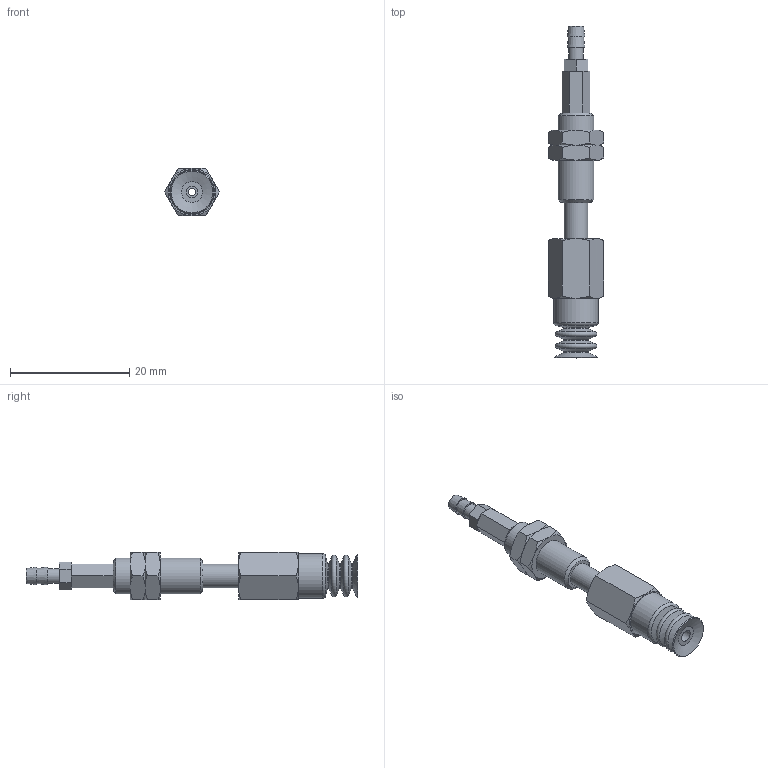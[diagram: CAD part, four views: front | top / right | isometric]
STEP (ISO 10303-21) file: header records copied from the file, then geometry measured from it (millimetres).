
FILE_DESCRIPTION(('STEP AP203'),'1');
FILE_NAME('-T.stp','2025-08-27T02:00:16',(' '),(' '),'Spatial InterOp 3D',' ',' ');
FILE_SCHEMA(('CONFIG_CONTROL_DESIGN'));
Length unit declared in the file: millimetre
Products named in the file (7): BNABPCTS-7-6-※-T; ADAPTER; NAPCTS-7-6-MBODY; Nut napc_s-7-6; NAPCTS-7-6-FBODY; BPCG-7-※; T (2)
Assembly tree (7 placements, depth 2):
  BNABPCTS-7-6-※-T
    ADAPTER
    NAPCTS-7-6-MBODY
    Nut napc_s-7-6  x2
    NAPCTS-7-6-FBODY
    BPCG-7-※
    T (2)
Bounding box: 9.24 x 55.6 x 8 mm (x, y, z)
Volume: 1627.1 mm3; surface area: 2517.6 mm2
Topology: 7 solids, 7 shells, 142 faces, 288 edges, 169 vertices
Faces by surface type: plane 59, cone 55, cylinder 17, torus 11
Full cylindrical faces by diameter (mm): 1.2 x3, 2 x1, 2.459 x1, 2.5 x1, 3 x1, 4 x4, 5.188 x2, 6 x3, 7.5 x1
Entity records: 3360 total; most frequent: CARTESIAN_POINT 725, DIRECTION 490, ORIENTED_EDGE 388, AXIS2_PLACEMENT_3D 218, EDGE_CURVE 194, EDGE_LOOP 183, FACE_OUTER_BOUND 146, VERTEX_POINT 139
